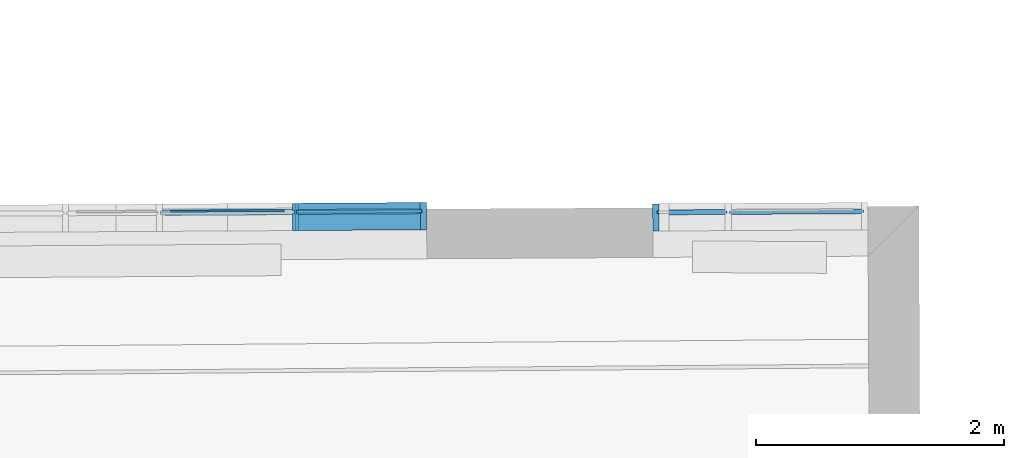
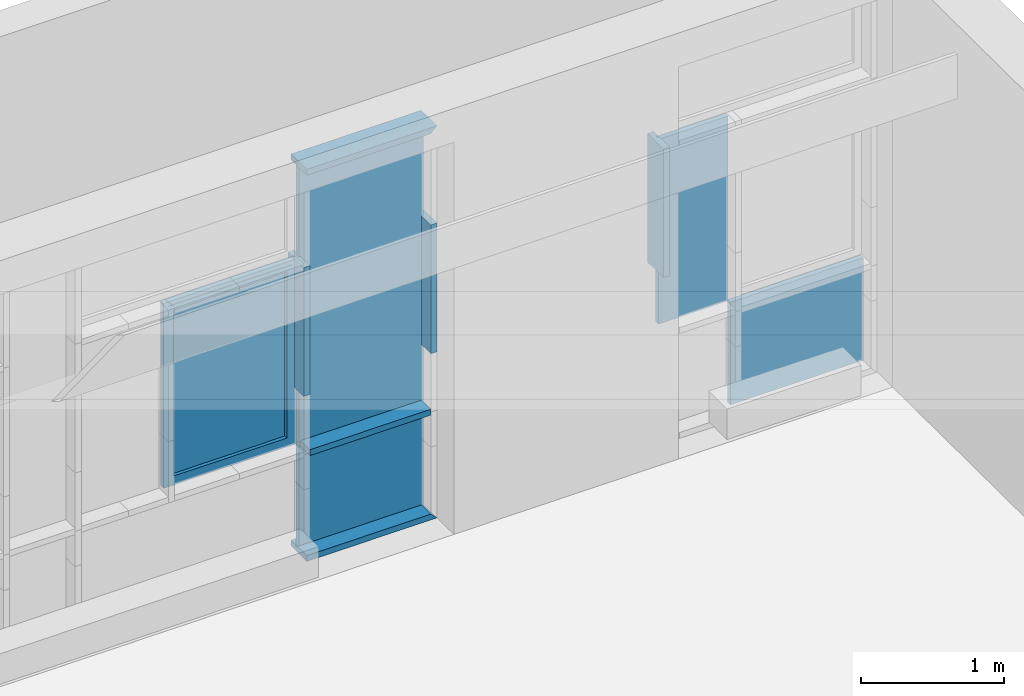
# One storey, part 133 of 196: 12 building element parts, 2 elements without a shape of their own.
"""IFC2X3 building model written with IfcOpenShell, lengths in metres."""

import ifcopenshell
import ifcopenshell.guid

model = None  # the IFC model being written
_history = None  # IfcOwnerHistory: only IFC2X3 demands one
_inside = {}  # id of a spatial element -> (the spatial element, [elements in it])
_under = {}  # id of a project, library or spatial element -> (it, [spatial elements below it])
_declared = {}  # id of a project -> (the project, [libraries it declares])
_typed = {}  # id of a type object -> (the type object, [elements of that type])
_made_of = {}  # id of a material, layer set ... -> (it, [elements and type objects made of it])


def new_model(schema):
    """Start an empty IFC model of exactly this schema.

    Asked for "IFC4X3", IfcOpenShell would pick the latest addendum, in which some entities
    have other attributes; the version numbers below select the first issue.
    IFC2X3 requires an IfcOwnerHistory on every rooted entity: one is made here for all.
    """
    global model, _history
    if schema == "IFC4X3":
        model = ifcopenshell.file(schema_version=(4, 3, 0, 0))
    else:
        model = ifcopenshell.file(schema=schema)
    _inside.clear()
    _under.clear()
    _declared.clear()
    _typed.clear()
    _made_of.clear()
    _history = None
    if model.schema == "IFC2X3":
        org = make("IfcOrganization", Name="unknown")
        user = make(
            "IfcPersonAndOrganization",
            ThePerson=make("IfcPerson", FamilyName="unknown"),
            TheOrganization=org,
        )
        app = make(
            "IfcApplication",
            ApplicationDeveloper=org,
            Version="unknown",
            ApplicationFullName="unknown",
            ApplicationIdentifier="unknown",
        )
        _history = make(
            "IfcOwnerHistory",
            OwningUser=user,
            OwningApplication=app,
            ChangeAction="ADDED",
            CreationDate=0,
        )
    return model


def make(cls, **values):
    """One entity of the class cls with the attributes given. An attribute that is None is left unset."""
    return model.create_entity(
        cls, **{name: value for name, value in values.items() if value is not None}
    )


def entity(cls, *values):
    """Any entity or typed value of the class cls, its attributes in the order of the schema. None: left unset."""
    e = model.create_entity(cls)
    for i, value in enumerate(values):
        if value is not None:
            e[i] = value
    return e


def rooted(cls, **values):
    """An entity with a GlobalId (a new one), such as an element, a storey or a relation."""
    return make(cls, GlobalId=ifcopenshell.guid.new(), OwnerHistory=_history, **values)


def si_unit(unit_type, name, prefix=None):
    """IfcSIUnit, for example si_unit("LENGTHUNIT", "METRE", prefix="MILLI")."""
    return make("IfcSIUnit", UnitType=unit_type, Prefix=prefix, Name=name)


def converted_unit(unit_type, name, factor, base, dimensions=None, offset=None):
    """IfcConversionBasedUnit, such as the inch: factor (a typed value) times the base unit."""
    return make(
        "IfcConversionBasedUnit"
        if offset is None
        else "IfcConversionBasedUnitWithOffset",
        ConversionOffset=offset,
        Dimensions=None
        if dimensions is None
        else entity("IfcDimensionalExponents", *dimensions),
        UnitType=unit_type,
        Name=name,
        ConversionFactor=make(
            "IfcMeasureWithUnit", ValueComponent=factor, UnitComponent=base
        ),
    )


def derived_unit(unit_type, elements):
    """IfcDerivedUnit: a product of units, each with its exponent."""
    return make(
        "IfcDerivedUnit",
        Elements=[
            make("IfcDerivedUnitElement", Unit=unit, Exponent=power)
            for unit, power in elements
        ],
        UnitType=unit_type,
    )


def money_unit(currency):
    """IfcMonetaryUnit."""
    return make("IfcMonetaryUnit", Currency=currency)


def assignment(units):
    """IfcUnitAssignment: the units of a project."""
    return None if units is None else make("IfcUnitAssignment", Units=units)


def point(xyz):
    """IfcCartesianPoint."""
    return None if xyz is None else make("IfcCartesianPoint", Coordinates=xyz)


def direction(xyz):
    """IfcDirection."""
    return None if xyz is None else make("IfcDirection", DirectionRatios=xyz)


def frame(location, z_axis=None, x_axis=None):
    """IfcAxis2Placement3D, a coordinate frame: its origin and axes. An axis left out is left unset."""
    return make(
        "IfcAxis2Placement3D",
        Location=point(location),
        Axis=direction(z_axis),
        RefDirection=direction(x_axis),
    )


def origin_with_axes():
    """The frame at (0, 0, 0) with the z axis (0, 0, 1) and the x axis (1, 0, 0) written out."""
    return frame((0.0, 0.0, 0.0), z_axis=(0.0, 0.0, 1.0), x_axis=(1.0, 0.0, 0.0))


def place(relative_to, where):
    """IfcLocalPlacement: puts the frame where relative to a parent placement (None: the world)."""
    return make(
        "IfcLocalPlacement", PlacementRelTo=relative_to, RelativePlacement=where
    )


def context(
    kind, dimensions, precision=None, world=None, true_north=None, identifier=None
):
    """IfcGeometricRepresentationContext, for example the 3D "Model" context."""
    return make(
        "IfcGeometricRepresentationContext",
        ContextIdentifier=identifier,
        ContextType=kind,
        CoordinateSpaceDimension=dimensions,
        Precision=precision,
        WorldCoordinateSystem=world,
        TrueNorth=true_north,
    )


def subcontext(parent, identifier, kind, view, scale=None):
    """IfcGeometricRepresentationSubContext, for example "Body" below "Model"."""
    return make(
        "IfcGeometricRepresentationSubContext",
        ContextIdentifier=identifier,
        ContextType=kind,
        ParentContext=parent,
        TargetScale=scale,
        TargetView=view,
    )


def project(units=None, contexts=None):
    """IfcProject with its units and contexts."""
    return rooted(
        "IfcProject",
        Name="project",
        RepresentationContexts=contexts,
        UnitsInContext=assignment(units),
    )


def spatial(cls, under=None, at=None, **own):
    """A site, building, storey or space (cls), placed at a placement, below another one or the project."""
    s = rooted(cls, ObjectPlacement=at, **own)
    if under is not None:
        _under.setdefault(under.id(), (under, []))[1].append(s)
    return s


def faces_of(points, faces, orient=None, outer=None):
    """IfcFace entities. A face is a list of loops; a loop is a list of indices into points, from 0.

    orient and outer hold one flag for each loop. By default every Orientation is true, the
    first loop of a face is its IfcFaceOuterBound and the others are IfcFaceBound.
    """
    made = []
    for i, loops in enumerate(faces):
        bounds = []
        for j, loop in enumerate(loops):
            is_outer = j == 0 if outer is None else outer[i][j]
            bounds.append(
                make(
                    "IfcFaceOuterBound" if is_outer else "IfcFaceBound",
                    Bound=make("IfcPolyLoop", Polygon=[points[k] for k in loop]),
                    Orientation=True if orient is None else orient[i][j],
                )
            )
        made.append(make("IfcFace", Bounds=bounds))
    return made


def faceted_brep(points, faces, orient=None, outer=None, voids=None):
    """IfcFacetedBrep: a solid bounded by flat faces; with voids (closed shells), ...WithVoids."""
    shared = [point(p) for p in points]
    hull = make("IfcClosedShell", CfsFaces=faces_of(shared, faces, orient, outer))
    if voids is None:
        return make("IfcFacetedBrep", Outer=hull)
    return make(
        "IfcFacetedBrepWithVoids",
        Outer=hull,
        Voids=[
            make(cls, CfsFaces=faces_of(shared, fs, o, b)) for cls, fs, o, b in voids
        ],
    )


def shape(context_of_items, identifier, shape_type, items):
    """IfcShapeRepresentation: the items that make up one representation, for example the "Body"."""
    return make(
        "IfcShapeRepresentation",
        ContextOfItems=context_of_items,
        RepresentationIdentifier=identifier,
        RepresentationType=shape_type,
        Items=items,
    )


def material(Name=None, Category=None):
    """IfcMaterial."""
    return make("IfcMaterial", Name=Name, Category=Category)


def made_of(thing, what):
    """Note that an element or type object is made of a material, layer set ...; save() writes the relation."""
    if what is not None:
        _made_of.setdefault(what.id(), (what, []))[1].append(thing)
    return thing


def type_object(cls, material=None, **own):
    """A type object (cls), such as IfcWallType, which elements share."""
    return made_of(rooted(cls, **own), material)


def element(
    cls,
    number,
    at=None,
    inside=None,
    cuts=None,
    type_object=None,
    material=None,
    context=None,
    identifier="Body",
    shape_type=None,
    held_by="IfcProductDefinitionShape",
    body=None,
    shapes=None,
    **own,
):
    """One element of the class cls, such as IfcWall. Its Tag is "e" and its number.

    at: its placement. inside: the storey or other place that contains it. cuts: it is an
    opening in that element (IfcRelVoidsElement). A single representation is given by context,
    identifier, shape_type and body (its items); several are given by shapes. held_by: the class
    of the entity that holds the representations. save() writes the other relations.
    """
    e = rooted(cls, Tag="e%d" % number, ObjectPlacement=at, **own)
    if body is not None:
        shapes = [shape(context, identifier, shape_type, body)]
    if shapes is not None:
        e.Representation = make(held_by, Representations=shapes)
    if inside is not None:
        _inside.setdefault(inside.id(), (inside, []))[1].append(e)
    if cuts is not None:
        rooted(
            "IfcRelVoidsElement", RelatingBuildingElement=cuts, RelatedOpeningElement=e
        )
    if type_object is not None:
        _typed.setdefault(type_object.id(), (type_object, []))[1].append(e)
    return made_of(e, material)


def aggregate(whole, parts):
    """IfcRelAggregates: a whole, such as a stair, and the parts it consists of."""
    return rooted("IfcRelAggregates", RelatingObject=whole, RelatedObjects=parts)


def save(model, path):
    """Write the relations noted so far, then the file.

    IfcRelAggregates (storeys below a building ...), IfcRelContainedInSpatialStructure (elements
    in a storey), IfcRelDefinesByType, IfcRelAssociatesMaterial and IfcRelDeclares: one each for
    every whole, place, type object, material and project.
    """
    for whole, parts in _under.values():
        aggregate(whole, parts)
    for where, things in _inside.values():
        rooted(
            "IfcRelContainedInSpatialStructure",
            RelatedElements=things,
            RelatingStructure=where,
        )
    for kind, things in _typed.values():
        rooted("IfcRelDefinesByType", RelatedObjects=things, RelatingType=kind)
    for what, things in _made_of.values():
        rooted("IfcRelAssociatesMaterial", RelatedObjects=things, RelatingMaterial=what)
    for by, libraries in _declared.values():
        rooted("IfcRelDeclares", RelatingContext=by, RelatedDefinitions=libraries)
    model.write(path)


model = new_model("IFC2X3")

# Units and contexts
model_context = context("Model", 3, precision=1e-05, world=origin_with_axes(), true_north=direction((0.0, 1.0)))
body_context = subcontext(model_context, "Body", "Model", "MODEL_VIEW")
ifc_project = project(units=[si_unit("LENGTHUNIT", "METRE"), si_unit("AREAUNIT", "SQUARE_METRE"), si_unit("VOLUMEUNIT", "CUBIC_METRE"), converted_unit("PLANEANGLEUNIT", "DEGREE", entity("IfcPlaneAngleMeasure", 0.0174532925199), si_unit("PLANEANGLEUNIT", "RADIAN"), dimensions=[0, 0, 0, 0, 0, 0, 0]), money_unit("EUR"), converted_unit("TIMEUNIT", "Year", entity("IfcTimeMeasure", 31556926.0), si_unit("TIMEUNIT", "SECOND"), dimensions=[0, 0, 1, 0, 0, 0, 0]), si_unit("MASSUNIT", "GRAM", prefix="KILO"), si_unit("THERMODYNAMICTEMPERATUREUNIT", "DEGREE_CELSIUS"), si_unit("LUMINOUSINTENSITYUNIT", "LUMEN"), si_unit("ENERGYUNIT", "JOULE", prefix="MEGA"), derived_unit("THERMALCONDUCTANCEUNIT", [(si_unit("POWERUNIT", "WATT"), 1), (si_unit("LENGTHUNIT", "METRE"), -1), (si_unit("THERMODYNAMICTEMPERATUREUNIT", "KELVIN"), -1)]), derived_unit("SPECIFICHEATCAPACITYUNIT", [(si_unit("ENERGYUNIT", "JOULE"), 1), (si_unit("MASSUNIT", "GRAM", prefix="KILO"), -1), (si_unit("THERMODYNAMICTEMPERATUREUNIT", "KELVIN"), -1)]), derived_unit("MASSDENSITYUNIT", [(si_unit("MASSUNIT", "GRAM", prefix="KILO"), 1), (si_unit("VOLUMEUNIT", "CUBIC_METRE"), -1)])], contexts=[model_context])

# Site, building, storey
site_placement = place(None, origin_with_axes())
site = spatial("IfcSite", under=ifc_project, at=site_placement, Name="Gelände", CompositionType="ELEMENT")
building_placement = place(site_placement, origin_with_axes())
building = spatial("IfcBuilding", under=site, at=building_placement, Name="Gebäude", CompositionType="ELEMENT")
storey_placement = place(building_placement, frame((0.0, 0.0, -3.0), z_axis=(0.0, 0.0, 1.0), x_axis=(1.0, 0.0, 0.0)))
storey = spatial("IfcBuildingStorey", under=building, at=storey_placement, Name="KELLERGESCHOSS", CompositionType="ELEMENT", Elevation=-3.0)

# Proxy, building element parts
building_element_proxy_type = type_object("IfcBuildingElementProxyType", Name="Fassadentyp", PredefinedType="NOTDEFINED")
proxy_1_placement = place(storey_placement, frame((-23.6479994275, 53.9595773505, 0.421025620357), z_axis=(0.0, 0.0, 1.0), x_axis=(1.0, 0.0, 0.0)))
proxy_1 = element("IfcBuildingElementProxy", 1, at=proxy_1_placement, inside=storey, type_object=building_element_proxy_type, Name="Fassade-002")
ifc_material_1 = material(Name="45_Glas, Normalglas")
building_element_part_1_placement = place(proxy_1_placement, origin_with_axes())
building_element_part_1 = element("IfcBuildingElementPart", 2, at=building_element_part_1_placement, material=ifc_material_1, Name="45_Glas, Normalglas", context=body_context, shape_type="Brep", body=[
    faceted_brep([(2.9994504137, -0.00228059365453, 0.910851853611), (4.00985056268, 0.00368851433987, 0.910851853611), (4.00961426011, 0.0436878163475, 0.910851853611), (2.99921411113, 0.0377187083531, 0.910851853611), (2.9994504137, -0.00228059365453, 0.619999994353), (2.9994504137, -0.00228059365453, 0.034999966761), (4.00985056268, 0.00368851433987, 0.0349999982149), (4.00985056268, 0.00368851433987, 0.619999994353), (4.00961426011, 0.0436878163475, 0.619999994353), (4.00961426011, 0.0436878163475, 0.0349999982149), (2.99921411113, 0.0377187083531, 0.034999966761), (2.99921411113, 0.0377187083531, 0.619999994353)], [[[0, 1, 2, 3]], [[0, 4, 5, 6, 7, 1]], [[1, 7, 8, 2]], [[3, 2, 8, 9, 10, 11]], [[4, 0, 3, 11]], [[5, 4, 11, 10]], [[6, 5, 10, 9]], [[7, 6, 9, 8]]]),
])
building_element_part_2_placement = place(proxy_1_placement, origin_with_axes())
building_element_part_2 = element("IfcBuildingElementPart", 3, at=building_element_part_2_placement, material=ifc_material_1, Name="45_Glas, Normalglas", context=body_context, shape_type="Brep", body=[
    faceted_brep([(2.99945042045, -0.00228059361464, 3.31499988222), (4.00985055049, 0.00368851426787, 3.31499988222), (4.00961424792, 0.0436878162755, 3.31499988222), (2.99921411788, 0.037718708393, 3.31499988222), (2.99945042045, -0.00228059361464, 2.52000000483), (2.99945042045, -0.00228059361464, 1.4199999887), (2.99945042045, -0.00228059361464, 0.930851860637), (4.00985055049, 0.00368851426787, 0.930851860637), (4.00985055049, 0.00368851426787, 1.4199999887), (4.00985055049, 0.00368851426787, 2.52000000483), (4.00961424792, 0.0436878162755, 2.52000000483), (4.00961424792, 0.0436878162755, 1.4199999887), (4.00961424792, 0.0436878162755, 0.930851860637), (2.99921411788, 0.037718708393, 0.930851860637), (2.99921411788, 0.037718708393, 1.4199999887), (2.99921411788, 0.037718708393, 2.52000000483)], [[[0, 1, 2, 3]], [[0, 4, 5, 6, 7, 8, 9, 1]], [[1, 9, 10, 2]], [[3, 2, 10, 11, 12, 13, 14, 15]], [[4, 0, 3, 15]], [[5, 4, 15, 14]], [[6, 5, 14, 13]], [[7, 6, 13, 12]], [[8, 7, 12, 11]], [[9, 8, 11, 10]]]),
])
ifc_material_2 = material(Name="53_Metall, Aluminium")
building_element_part_3_placement = place(proxy_1_placement, origin_with_axes())
building_element_part_3 = element("IfcBuildingElementPart", 4, at=building_element_part_3_placement, material=ifc_material_2, Name="53_Metall, Aluminium", context=body_context, shape_type="Brep", body=[
    faceted_brep([(2.96415562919, 0.0475117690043, 0.945851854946), (1.91672229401, 0.041323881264, 0.945851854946), (1.91669275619, 0.046323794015, 0.945851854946), (2.96412609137, 0.0525116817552, 0.945851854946), (2.91915641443, 0.0472459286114, 0.990851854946), (1.96172150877, 0.0415897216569, 0.990851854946), (1.96169197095, 0.0465896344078, 0.990851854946), (2.91912687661, 0.0522458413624, 0.990851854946)], [[[0, 1, 2, 3]], [[0, 4, 5, 1]], [[1, 5, 6, 2]], [[3, 2, 6, 7]], [[4, 0, 3, 7]], [[5, 4, 7, 6]]]),
    faceted_brep([(1.91672229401, 0.041323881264, 0.945851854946), (1.91672229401, 0.041323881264, 2.49499997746), (1.91669275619, 0.046323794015, 2.49499997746), (1.91669275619, 0.046323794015, 0.945851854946), (1.96172150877, 0.0415897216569, 0.990851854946), (1.96172150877, 0.0415897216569, 2.44999997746), (1.96169197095, 0.0465896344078, 2.44999997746), (1.96169197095, 0.0465896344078, 0.990851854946)], [[[0, 1, 2, 3]], [[0, 4, 5, 1]], [[1, 5, 6, 2]], [[3, 2, 6, 7]], [[4, 0, 3, 7]], [[5, 4, 7, 6]]]),
    faceted_brep([(2.96415562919, 0.0475117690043, 2.49499997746), (2.91915641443, 0.0472459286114, 2.44999997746), (2.91912687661, 0.0522458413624, 2.44999997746), (2.96412609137, 0.0525116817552, 2.49499997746), (1.91672229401, 0.041323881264, 2.49499997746), (1.96172150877, 0.0415897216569, 2.44999997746), (1.96169197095, 0.0465896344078, 2.44999997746), (1.91669275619, 0.046323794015, 2.49499997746)], [[[0, 1, 2, 3]], [[0, 4, 5, 1]], [[1, 5, 6, 2]], [[3, 2, 6, 7]], [[4, 0, 3, 7]], [[5, 4, 7, 6]]]),
    faceted_brep([(2.96415562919, 0.0475117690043, 0.945851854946), (2.91915641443, 0.0472459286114, 0.990851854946), (2.91912687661, 0.0522458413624, 0.990851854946), (2.96412609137, 0.0525116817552, 0.945851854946), (2.96415562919, 0.0475117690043, 2.49499997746), (2.91915641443, 0.0472459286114, 2.44999997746), (2.91912687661, 0.0522458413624, 2.44999997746), (2.96412609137, 0.0525116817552, 2.49499997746)], [[[0, 1, 2, 3]], [[0, 4, 5, 1]], [[1, 5, 6, 2]], [[3, 2, 6, 7]], [[4, 0, 3, 7]], [[5, 4, 7, 6]]]),
    faceted_brep([(2.9644510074, -0.00248735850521, 0.945851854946), (1.91701767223, -0.00867524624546, 0.945851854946), (1.91672229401, 0.041323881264, 0.945851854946), (2.96415562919, 0.0475117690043, 0.945851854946), (2.9444513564, -0.00260550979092, 0.965851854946), (1.93701732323, -0.00855709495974, 0.965851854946), (1.93672194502, 0.0414420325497, 0.965851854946), (2.94415597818, 0.0473936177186, 0.965851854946)], [[[0, 1, 2, 3]], [[0, 4, 5, 1]], [[1, 5, 6, 2]], [[3, 2, 6, 7]], [[4, 0, 3, 7]], [[5, 4, 7, 6]]]),
    faceted_brep([(1.91701767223, -0.00867524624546, 0.945851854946), (1.91701767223, -0.00867524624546, 2.49499997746), (1.91672229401, 0.041323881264, 2.49499997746), (1.91672229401, 0.041323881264, 0.945851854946), (1.93701732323, -0.00855709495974, 0.965851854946), (1.93701732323, -0.00855709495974, 2.47499997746), (1.93672194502, 0.0414420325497, 2.47499997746), (1.93672194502, 0.0414420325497, 0.965851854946)], [[[0, 1, 2, 3]], [[0, 4, 5, 1]], [[1, 5, 6, 2]], [[3, 2, 6, 7]], [[4, 0, 3, 7]], [[5, 4, 7, 6]]]),
    faceted_brep([(2.9644510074, -0.00248735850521, 2.49499997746), (2.9444513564, -0.00260550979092, 2.47499997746), (2.94415597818, 0.0473936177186, 2.47499997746), (2.96415562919, 0.0475117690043, 2.49499997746), (1.91701767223, -0.00867524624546, 2.49499997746), (1.93701732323, -0.00855709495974, 2.47499997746), (1.93672194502, 0.0414420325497, 2.47499997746), (1.91672229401, 0.041323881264, 2.49499997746)], [[[0, 1, 2, 3]], [[0, 4, 5, 1]], [[1, 5, 6, 2]], [[3, 2, 6, 7]], [[4, 0, 3, 7]], [[5, 4, 7, 6]]]),
    faceted_brep([(2.9644510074, -0.00248735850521, 0.945851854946), (2.9444513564, -0.00260550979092, 0.965851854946), (2.94415597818, 0.0473936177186, 0.965851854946), (2.96415562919, 0.0475117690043, 0.945851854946), (2.9644510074, -0.00248735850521, 2.49499997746), (2.9444513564, -0.00260550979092, 2.47499997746), (2.94415597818, 0.0473936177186, 2.47499997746), (2.96415562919, 0.0475117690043, 2.49499997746)], [[[0, 1, 2, 3]], [[0, 4, 5, 1]], [[1, 5, 6, 2]], [[3, 2, 6, 7]], [[4, 0, 3, 7]], [[5, 4, 7, 6]]]),
    faceted_brep([(2.9794507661, -0.00239874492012, 0.930851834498), (1.90201793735, -0.00876385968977, 0.930851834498), (1.90178163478, 0.0312354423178, 0.930851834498), (2.97921446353, 0.0376005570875, 0.930851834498), (2.9644510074, -0.00248735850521, 0.945851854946), (1.91701767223, -0.00867524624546, 0.945851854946), (1.91678136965, 0.0313240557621, 0.945851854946), (2.96421470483, 0.0375119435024, 0.945851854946)], [[[0, 1, 2, 3]], [[0, 4, 5, 1]], [[1, 5, 6, 2]], [[3, 2, 6, 7]], [[4, 0, 3, 7]], [[5, 4, 7, 6]]]),
    faceted_brep([(1.90201793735, -0.00876385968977, 0.930851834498), (1.90201793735, -0.00876385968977, 2.50999999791), (1.90178163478, 0.0312354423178, 2.50999999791), (1.90178163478, 0.0312354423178, 0.930851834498), (1.91701767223, -0.00867524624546, 0.945851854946), (1.91701767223, -0.00867524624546, 2.49499997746), (1.91678136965, 0.0313240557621, 2.49499997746), (1.91678136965, 0.0313240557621, 0.945851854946)], [[[0, 1, 2, 3]], [[0, 4, 5, 1]], [[1, 5, 6, 2]], [[3, 2, 6, 7]], [[4, 0, 3, 7]], [[5, 4, 7, 6]]]),
    faceted_brep([(1.90201793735, -0.00876385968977, 2.50999999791), (2.9794507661, -0.00239874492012, 2.50999999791), (2.97921446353, 0.0376005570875, 2.50999999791), (1.90178163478, 0.0312354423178, 2.50999999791), (1.91701767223, -0.00867524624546, 2.49499997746), (2.9644510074, -0.00248735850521, 2.49499997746), (2.96421470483, 0.0375119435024, 2.49499997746), (1.91678136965, 0.0313240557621, 2.49499997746)], [[[0, 1, 2, 3]], [[0, 4, 5, 1]], [[1, 5, 6, 2]], [[3, 2, 6, 7]], [[4, 0, 3, 7]], [[5, 4, 7, 6]]]),
    faceted_brep([(2.9794507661, -0.00239874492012, 2.50999999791), (2.9794507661, -0.00239874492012, 0.930851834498), (2.97921446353, 0.0376005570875, 0.930851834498), (2.97921446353, 0.0376005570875, 2.50999999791), (2.9644510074, -0.00248735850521, 2.49499997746), (2.9644510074, -0.00248735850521, 0.945851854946), (2.96421470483, 0.0375119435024, 0.945851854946), (2.96421470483, 0.0375119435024, 2.49499997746)], [[[0, 1, 2, 3]], [[0, 4, 5, 1]], [[1, 5, 6, 2]], [[3, 2, 6, 7]], [[4, 0, 3, 7]], [[5, 4, 7, 6]]]),
    faceted_brep([(2.89915676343, 0.0471277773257, 1.01085185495), (2.89948167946, -0.00787126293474, 1.01085185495), (2.89948167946, -0.00787126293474, 2.42999997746), (2.89915676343, 0.0471277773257, 2.42999997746), (2.94415597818, 0.0473936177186, 0.965851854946), (2.94448089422, -0.00760542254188, 0.965851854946), (2.94448089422, -0.00760542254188, 2.47499997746), (2.94415597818, 0.0473936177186, 2.47499997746)], [[[0, 1, 2, 3]], [[4, 5, 1, 0]], [[1, 5, 6, 2]], [[3, 2, 6, 7]], [[0, 3, 7, 4]], [[7, 6, 5, 4]]]),
    faceted_brep([(1.93672194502, 0.0414420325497, 0.965851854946), (1.93704686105, -0.0135570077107, 0.965851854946), (1.93704686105, -0.0135570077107, 2.47499997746), (1.93672194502, 0.0414420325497, 2.47499997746), (1.98172115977, 0.0417078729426, 1.01085185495), (1.98204607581, -0.0132911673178, 1.01085185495), (1.98204607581, -0.0132911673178, 2.42999997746), (1.98172115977, 0.0417078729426, 2.42999997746)], [[[0, 1, 2, 3]], [[4, 5, 1, 0]], [[1, 5, 6, 2]], [[3, 2, 6, 7]], [[0, 3, 7, 4]], [[7, 6, 5, 4]]]),
    faceted_brep([(1.93672194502, 0.0414420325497, 0.965851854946), (1.93704686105, -0.0135570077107, 0.965851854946), (1.98204607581, -0.0132911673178, 1.01085185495), (1.98172115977, 0.0417078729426, 1.01085185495), (2.94415597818, 0.0473936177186, 0.965851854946), (2.94448089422, -0.00760542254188, 0.965851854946), (2.89948167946, -0.00787126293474, 1.01085185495), (2.89915676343, 0.0471277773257, 1.01085185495)], [[[0, 1, 2, 3]], [[4, 5, 1, 0]], [[1, 5, 6, 2]], [[3, 2, 6, 7]], [[0, 3, 7, 4]], [[7, 6, 5, 4]]]),
    faceted_brep([(2.94415597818, 0.0473936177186, 2.47499997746), (2.94448089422, -0.00760542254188, 2.47499997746), (2.89948167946, -0.00787126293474, 2.42999997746), (2.89915676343, 0.0471277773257, 2.42999997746), (1.93672194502, 0.0414420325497, 2.47499997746), (1.93704686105, -0.0135570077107, 2.47499997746), (1.98204607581, -0.0132911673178, 2.42999997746), (1.98172115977, 0.0417078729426, 2.42999997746)], [[[0, 1, 2, 3]], [[4, 5, 1, 0]], [[1, 5, 6, 2]], [[3, 2, 6, 7]], [[0, 3, 7, 4]], [[7, 6, 5, 4]]]),
])
building_element_part_4_placement = place(proxy_1_placement, origin_with_axes())
building_element_part_4 = element("IfcBuildingElementPart", 5, at=building_element_part_4_placement, material=ifc_material_1, Name="45_Glas, Normalglas", context=body_context, shape_type="Brep", body=[
    faceted_brep([(2.89921583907, 0.0371279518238, 1.01085185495), (2.8993103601, 0.0211282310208, 1.01085185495), (1.98187475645, 0.0157083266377, 1.01085185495), (1.98178023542, 0.0317080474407, 1.01085185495), (2.89921583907, 0.0371279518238, 2.42999997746), (2.8993103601, 0.0211282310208, 2.42999997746), (1.98187475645, 0.0157083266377, 2.42999997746), (1.98178023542, 0.0317080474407, 2.42999997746)], [[[0, 1, 2, 3]], [[4, 5, 1, 0]], [[1, 5, 6, 2]], [[3, 2, 6, 7]], [[0, 3, 7, 4]], [[7, 6, 5, 4]]]),
])
building_element_part_5_placement = place(proxy_1_placement, origin_with_axes())
building_element_part_5 = element("IfcBuildingElementPart", 6, at=building_element_part_5_placement, material=ifc_material_2, Name="53_Metall, Aluminium", context=body_context, shape_type="Brep", body=[
    faceted_brep([(2.98939150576, 0.00766015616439, 0.035), (2.98927335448, 0.0276598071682, 0.035), (2.98927335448, 0.0276598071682, 0.05), (2.98891890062, 0.0876587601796, 0.05), (2.98891890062, 0.0876587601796, 0.0), (2.99021856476, -0.132337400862, 0.0), (2.99021856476, -0.132337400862, 0.05), (2.98939150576, 0.00766015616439, 0.05), (4.00979148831, 0.0136883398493, 0.035), (4.00967333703, 0.0336879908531, 0.035), (3.99467359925, 0.0335993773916, 0.05), (3.99431914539, 0.093598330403, 0.05), (4.04431827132, 0.093893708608, 0.0), (4.04561793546, -0.126102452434, 0.0), (3.99561880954, -0.126397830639, 0.05), (3.99479175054, 0.0135997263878, 0.05)], [[[0, 1, 2, 3, 4, 5, 6, 7]], [[1, 0, 8, 9]], [[10, 2, 1, 9]], [[2, 10, 11, 3]], [[4, 3, 11, 12]], [[5, 4, 12, 13]], [[6, 5, 13, 14]], [[15, 7, 6, 14]], [[0, 7, 15, 8]], [[8, 15, 14, 13, 12, 11, 10, 9]]]),
])
building_element_part_6_placement = place(proxy_1_placement, origin_with_axes())
building_element_part_6 = element("IfcBuildingElementPart", 7, at=building_element_part_6_placement, material=ifc_material_2, Name="53_Metall, Aluminium", context=body_context, shape_type="Brep", body=[
    faceted_brep([(4.00979148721, 0.0136883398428, 2.51999998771), (3.99479174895, 0.0135997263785, 2.51999998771), (3.99561880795, -0.126397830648, 2.51999998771), (4.04561793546, -0.126102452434, 2.51999998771), (4.04431827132, 0.093893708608, 2.51999998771), (3.99431914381, 0.0935983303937, 2.51999998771), (3.99467359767, 0.0335993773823, 2.51999998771), (4.00967333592, 0.0336879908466, 2.51999998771), (4.00979148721, 0.0136883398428, 1.41999998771), (3.99479174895, 0.0135997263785, 1.41999998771), (3.99561880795, -0.126397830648, 1.41999998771), (4.04561793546, -0.126102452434, 1.41999998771), (4.04431827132, 0.093893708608, 1.41999998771), (3.99431914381, 0.0935983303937, 1.41999998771), (3.99467359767, 0.0335993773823, 1.41999998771), (4.00967333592, 0.0336879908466, 1.41999998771)], [[[0, 1, 2, 3, 4, 5, 6, 7]], [[0, 8, 9, 1]], [[9, 10, 2, 1]], [[10, 11, 3, 2]], [[11, 12, 4, 3]], [[12, 13, 5, 4]], [[6, 5, 13, 14]], [[14, 15, 7, 6]], [[7, 15, 8, 0]], [[8, 15, 14, 13, 12, 11, 10, 9]]]),
])
building_element_part_7_placement = place(proxy_1_placement, origin_with_axes())
building_element_part_7 = element("IfcBuildingElementPart", 8, at=building_element_part_7_placement, material=ifc_material_2, Name="53_Metall, Aluminium", context=body_context, shape_type="Brep", body=[
    faceted_brep([(3.01439106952, 0.00780784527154, 0.910851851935), (3.01439106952, 0.00780784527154, 0.895851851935), (3.01521812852, -0.132189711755, 0.895851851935), (3.01521812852, -0.132189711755, 0.945851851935), (3.01439106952, 0.00780784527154, 0.945851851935), (3.01439106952, 0.00780784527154, 0.930851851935), (3.01427291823, 0.0278074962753, 0.930851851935), (3.01427291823, 0.0278074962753, 0.945851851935), (3.01391846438, 0.0878064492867, 0.945851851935), (3.01391846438, 0.0878064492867, 0.895851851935), (3.01427291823, 0.0278074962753, 0.895851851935), (3.01427291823, 0.0278074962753, 0.910851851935), (3.99479174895, 0.0135997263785, 0.910851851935), (3.99479174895, 0.0135997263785, 0.895851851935), (3.99561880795, -0.126397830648, 0.895851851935), (3.99561880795, -0.126397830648, 0.945851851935), (3.99479174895, 0.0135997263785, 0.945851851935), (3.99479174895, 0.0135997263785, 0.930851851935), (3.99467359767, 0.0335993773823, 0.930851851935), (3.99467359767, 0.0335993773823, 0.945851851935), (3.99431914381, 0.0935983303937, 0.945851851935), (3.99431914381, 0.0935983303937, 0.895851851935), (3.99467359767, 0.0335993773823, 0.895851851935), (3.99467359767, 0.0335993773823, 0.910851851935)], [[[0, 1, 2, 3, 4, 5, 6, 7, 8, 9, 10, 11]], [[1, 0, 12, 13]], [[1, 13, 14, 2]], [[2, 14, 15, 3]], [[4, 3, 15, 16]], [[4, 16, 17, 5]], [[5, 17, 18, 6]], [[7, 6, 18, 19]], [[19, 20, 8, 7]], [[8, 20, 21, 9]], [[22, 10, 9, 21]], [[11, 10, 22, 23]], [[0, 11, 23, 12]], [[23, 22, 21, 20, 19, 18, 17, 16, 15, 14, 13, 12]]]),
])
building_element_part_8_placement = place(proxy_1_placement, origin_with_axes())
building_element_part_8 = element("IfcBuildingElementPart", 9, at=building_element_part_8_placement, material=ifc_material_2, Name="53_Metall, Aluminium", context=body_context, shape_type="Brep", body=[
    faceted_brep([(2.98939150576, 0.00766015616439, 3.31499989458), (2.98939150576, 0.00766015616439, 3.29999989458), (2.99021856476, -0.132337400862, 3.29999989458), (2.99021856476, -0.132337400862, 3.34999989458), (2.98891890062, 0.0876587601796, 3.34999989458), (2.98891890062, 0.0876587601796, 3.29999989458), (2.98927335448, 0.0276598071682, 3.29999989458), (2.98927335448, 0.0276598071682, 3.31499989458), (4.00979148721, 0.0136883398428, 3.31499989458), (3.99479174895, 0.0135997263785, 3.29999989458), (3.99561880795, -0.126397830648, 3.29999989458), (4.04561793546, -0.126102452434, 3.34999989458), (4.04431827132, 0.093893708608, 3.34999989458), (3.99431914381, 0.0935983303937, 3.29999989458), (3.99467359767, 0.0335993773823, 3.29999989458), (4.00967333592, 0.0336879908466, 3.31499989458)], [[[0, 1, 2, 3, 4, 5, 6, 7]], [[0, 8, 9, 1]], [[9, 10, 2, 1]], [[2, 10, 11, 3]], [[3, 11, 12, 4]], [[4, 12, 13, 5]], [[6, 5, 13, 14]], [[14, 15, 7, 6]], [[7, 15, 8, 0]], [[8, 15, 14, 13, 12, 11, 10, 9]]]),
])
building_element_part_9_placement = place(proxy_1_placement, origin_with_axes())
building_element_part_9 = element("IfcBuildingElementPart", 10, at=building_element_part_9_placement, material=ifc_material_2, Name="53_Metall, Aluminium", context=body_context, shape_type="Brep", body=[
    faceted_brep([(2.97939168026, 0.00760108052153, 2.51999998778), (2.96439194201, 0.00751246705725, 2.51999998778), (2.96521900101, -0.132485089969, 2.51999998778), (3.01521812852, -0.132189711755, 2.51999998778), (3.01439106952, 0.00780784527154, 2.51999998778), (2.99939133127, 0.00771923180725, 2.51999998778), (2.99927317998, 0.0277188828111, 2.51999998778), (3.01427291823, 0.0278074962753, 2.51999998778), (3.01391846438, 0.0878064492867, 2.51999998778), (2.96391933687, 0.0875110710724, 2.51999998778), (2.96427379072, 0.027512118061, 2.51999998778), (2.97927352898, 0.0276007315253, 2.51999998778), (2.97939168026, 0.00760108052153, 1.41999998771), (2.96439194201, 0.00751246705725, 1.41999998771), (2.96521900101, -0.132485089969, 1.41999998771), (3.01521812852, -0.132189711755, 1.41999998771), (3.01439106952, 0.00780784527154, 1.41999998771), (2.99939133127, 0.00771923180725, 1.41999998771), (2.99927317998, 0.0277188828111, 1.41999998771), (3.01427291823, 0.0278074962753, 1.41999998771), (3.01391846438, 0.0878064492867, 1.41999998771), (2.96391933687, 0.0875110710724, 1.41999998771), (2.96427379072, 0.027512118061, 1.41999998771), (2.97927352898, 0.0276007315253, 1.41999998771)], [[[0, 1, 2, 3, 4, 5, 6, 7, 8, 9, 10, 11]], [[1, 0, 12, 13]], [[1, 13, 14, 2]], [[3, 2, 14, 15]], [[4, 3, 15, 16]], [[4, 16, 17, 5]], [[5, 17, 18, 6]], [[7, 6, 18, 19]], [[19, 20, 8, 7]], [[9, 8, 20, 21]], [[22, 10, 9, 21]], [[11, 10, 22, 23]], [[0, 11, 23, 12]], [[23, 22, 21, 20, 19, 18, 17, 16, 15, 14, 13, 12]]]),
])
aggregate(proxy_1, [building_element_part_1, building_element_part_2, building_element_part_3, building_element_part_4, building_element_part_5, building_element_part_6, building_element_part_7, building_element_part_8, building_element_part_9])

proxy_2_placement = place(storey_placement, frame((-16.6085593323, 53.9801493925, 0.421025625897), z_axis=(0.0, 0.0, 1.0), x_axis=(1.0, 0.0, 0.0)))
proxy_2 = element("IfcBuildingElementProxy", 11, at=proxy_2_placement, inside=storey, type_object=building_element_proxy_type, Name="Fassade-002")
building_element_part_10_placement = place(proxy_2_placement, origin_with_axes())
building_element_part_10 = element("IfcBuildingElementPart", 12, at=building_element_part_10_placement, material=ifc_material_1, Name="45_Glas, Normalglas", context=body_context, shape_type="Brep", body=[
    faceted_brep([(-0.552352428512, -0.0232634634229, 0.910851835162), (0.52758916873, -0.0168835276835, 0.910851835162), (0.527352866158, 0.0231157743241, 0.910851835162), (-0.552588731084, 0.0167358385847, 0.910851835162), (-0.552352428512, -0.0232634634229, 0.619999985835), (-0.552352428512, -0.0232634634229, 0.0349999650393), (0.52758916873, -0.0168835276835, 0.0349999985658), (0.52758916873, -0.0168835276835, 0.619999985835), (0.527352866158, 0.0231157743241, 0.619999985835), (0.527352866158, 0.0231157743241, 0.0349999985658), (-0.552588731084, 0.0167358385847, 0.0349999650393), (-0.552588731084, 0.0167358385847, 0.619999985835)], [[[0, 1, 2, 3]], [[0, 4, 5, 6, 7, 1]], [[1, 7, 8, 2]], [[3, 2, 8, 9, 10, 11]], [[4, 0, 3, 11]], [[5, 4, 11, 10]], [[6, 5, 10, 9]], [[7, 6, 9, 8]]]),
])
building_element_part_11_placement = place(proxy_2_placement, origin_with_axes())
building_element_part_11 = element("IfcBuildingElementPart", 13, at=building_element_part_11_placement, material=ifc_material_1, Name="45_Glas, Normalglas", context=body_context, shape_type="Brep", body=[
    faceted_brep([(-1.13571819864, -0.02670979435, 2.50999999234), (-1.0404473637, -0.0261469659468, 2.50999999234), (-1.04068366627, 0.0138523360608, 2.50999999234), (-1.13595450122, 0.0132895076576, 2.50999999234), (-1.13571819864, -0.02670979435, 1.41999998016), (-1.13571819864, -0.02670979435, 0.930851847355), (-1.0404473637, -0.0261469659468, 0.930851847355), (-0.572352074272, -0.0233816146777, 0.930851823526), (-0.572352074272, -0.0233816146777, 1.41999998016), (-0.572352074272, -0.0233816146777, 2.50999999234), (-0.572588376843, 0.0166176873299, 2.50999999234), (-0.572588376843, 0.0166176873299, 1.41999998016), (-0.572588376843, 0.0166176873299, 0.930851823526), (-1.04068366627, 0.0138523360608, 0.930851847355), (-1.13595450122, 0.0132895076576, 0.930851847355), (-1.13595450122, 0.0132895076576, 1.41999998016)], [[[0, 1, 2, 3]], [[0, 4, 5, 6, 7, 8, 9, 1]], [[1, 9, 10, 2]], [[3, 2, 10, 11, 12, 13, 14, 15]], [[4, 0, 3, 15]], [[5, 4, 15, 14]], [[6, 5, 14, 13]], [[7, 6, 13, 12]], [[8, 7, 12, 11]], [[9, 8, 11, 10]]]),
])
building_element_part_12_placement = place(proxy_2_placement, origin_with_axes())
building_element_part_12 = element("IfcBuildingElementPart", 14, at=building_element_part_12_placement, material=ifc_material_2, Name="53_Metall, Aluminium", context=body_context, shape_type="Brep", body=[
    faceted_brep([(-1.1357772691, -0.0167099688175, 2.51999998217), (-1.13589542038, 0.00328968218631, 2.51999998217), (-1.12089568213, 0.0033782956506, 2.51999998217), (-1.12125013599, 0.063377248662, 2.51999998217), (-1.1712492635, 0.0630818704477, 2.51999998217), (-1.16994959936, -0.156914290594, 2.51999998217), (-1.11995047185, -0.15661891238, 2.51999998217), (-1.12077753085, -0.0166213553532, 2.51999998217), (-1.1357772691, -0.0167099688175, 1.41999998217), (-1.13589542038, 0.00328968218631, 1.41999998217), (-1.12089568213, 0.0033782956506, 1.41999998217), (-1.12125013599, 0.063377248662, 1.41999998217), (-1.1712492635, 0.0630818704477, 1.41999998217), (-1.16994959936, -0.156914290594, 1.41999998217), (-1.11995047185, -0.15661891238, 1.41999998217), (-1.12077753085, -0.0166213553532, 1.41999998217)], [[[0, 1, 2, 3, 4, 5, 6, 7]], [[1, 0, 8, 9]], [[10, 2, 1, 9]], [[2, 10, 11, 3]], [[12, 4, 3, 11]], [[13, 5, 4, 12]], [[14, 6, 5, 13]], [[15, 7, 6, 14]], [[0, 7, 15, 8]], [[8, 15, 14, 13, 12, 11, 10, 9]]]),
])
aggregate(proxy_2, [building_element_part_10, building_element_part_11, building_element_part_12])

save(model, "model.ifc")
